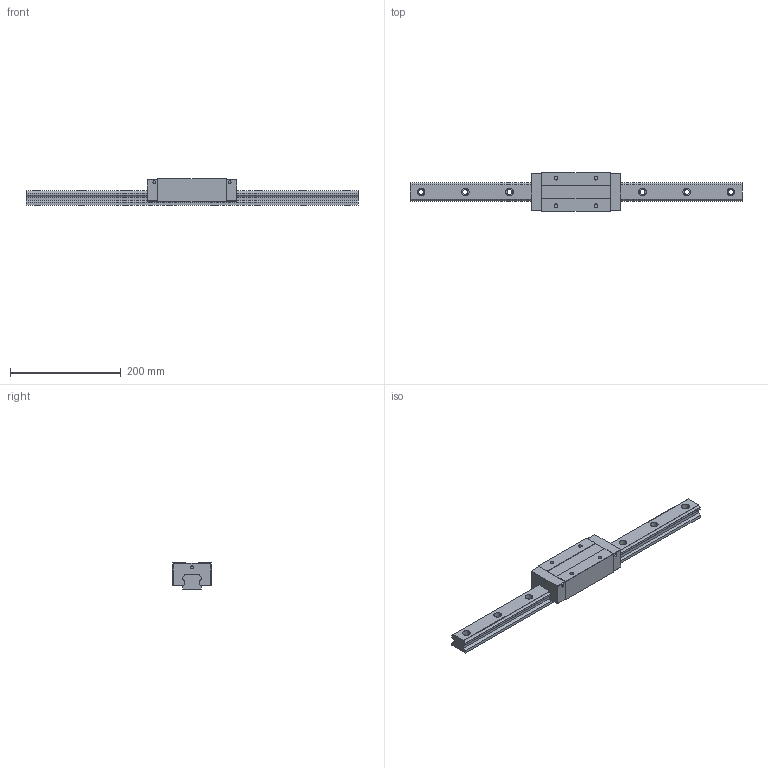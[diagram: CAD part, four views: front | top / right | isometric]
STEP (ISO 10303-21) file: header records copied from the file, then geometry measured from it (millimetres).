
FILE_DESCRIPTION (( 'STEP AP203' ), '1' );
FILE_NAME ('TRS35VE-ZN.STEP', '2024-06-13T00:42:43', ( '' ), ( '' ), 'SwSTEP 2.0', 'SolidWorks 2022', '' );
FILE_SCHEMA (( 'CONFIG_CONTROL_DESIGN' ));
Length unit declared in the file: millimetre
Products named in the file (1): TRS35VE-ZN
Bounding box: 600 x 70 x 48 mm (x, y, z)
Volume: 808545 mm3; surface area: 130790.6 mm2
Topology: 2 solids, 2 shells, 178 faces, 464 edges, 308 vertices
Faces by surface type: plane 90, cylinder 88
Entity records: 5619 total; most frequent: DIRECTION 998, CARTESIAN_POINT 951, ORIENTED_EDGE 928, EDGE_CURVE 464, AXIS2_PLACEMENT_3D 355, VERTEX_POINT 308, LINE 288, VECTOR 288
